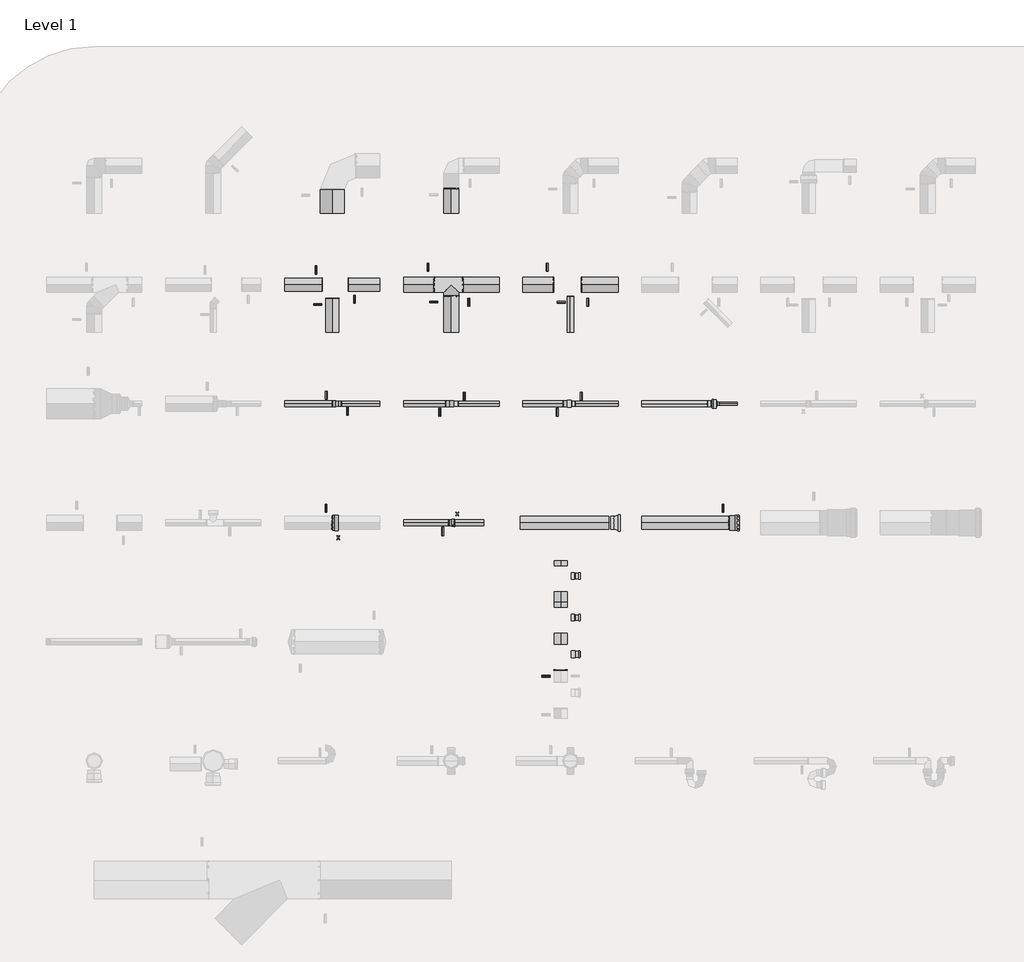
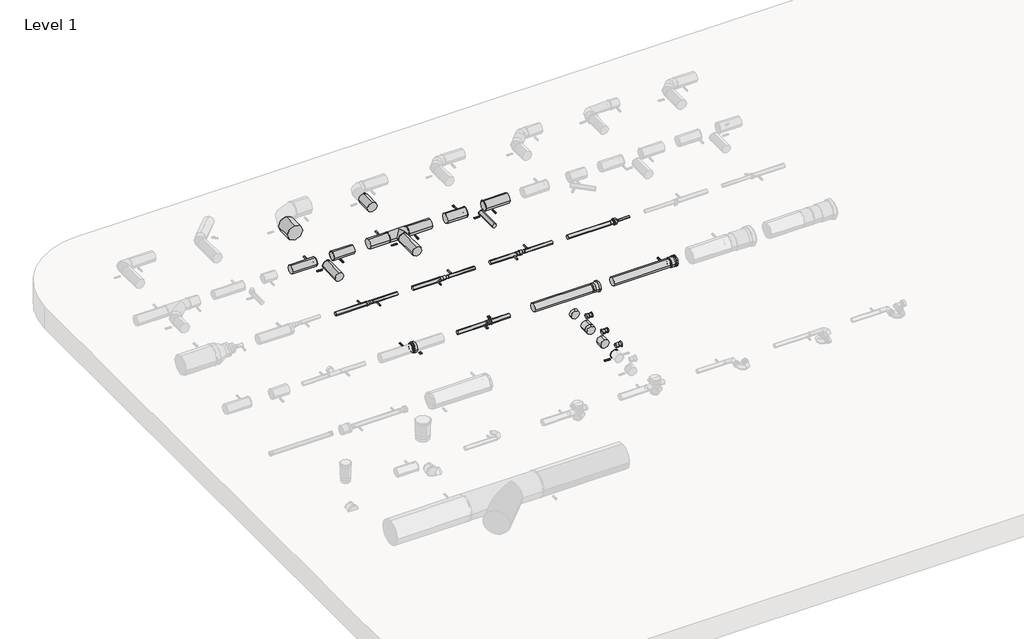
# One storey, part 3 of 6: 36 pipe fittings, 27 pipe segments.
"""IFC4 building model written with IfcOpenShell, lengths in millimetres."""

from ifc_helpers import new_model, si_unit, point, frame, frame_2d, origin, place, context, project, spatial, circle_curve, trimmed, segment, composite_curve, outline, extrude, transform, mapped, element, save
from components import pipe_fitting_81bb528a, pipe_fitting_5bbf7105, s423250_e266388f, s424050_1e7a39d4, var_c57503f9, var_1d5090d4, var_7b0d4120, var_48b90cc6, var_00a72124, nested_do_not_use_93614455, nested_do_not_use_1446917e, nested_do_not_use_db0ed7d6, nested_do_not_use_e3f89409, nested_do_not_use_a526494d, nested_do_not_use_0fed0da3, nested_do_not_use_7e7c9079, welded_7e5780db, welded_75b1cb19, welded_dc74d5dd, welded_63566782, welded_ac007b25

model = new_model("IFC4")

# Units and contexts
model_context = context("Model", 3, world=origin())
ifc_project = project(units=[si_unit("LENGTHUNIT", "METRE", prefix="MILLI")], contexts=[model_context])

# Site, building, storey
site = spatial("IfcSite", under=ifc_project)
building = spatial("IfcBuilding", under=site)
storey = spatial("IfcBuildingStorey", under=building, Name="Level 1", Elevation=0.0)

# Pipe fittings
placement = place(None, origin())
pipe_fitting_shape = pipe_fitting_81bb528a(model_context)
element("IfcPipeFitting", 1, ObjectType="PIF_HDPE weld_Akatherm : ringseal or non-welded", at=placement, inside=storey, context=model_context, shape_type="MappedRepresentation", body=[
    mapped(pipe_fitting_shape, transform((4665.9781064, 17273.6274824, 200.0), x_axis=(1.0, 0.0, 0.0), y_axis=(0.0, 1.0, 0.0), z_axis=(0.0, 0.0, 1.0))),
])
pipe_fitting_2_shape = pipe_fitting_5bbf7105(model_context)
element("IfcPipeFitting", 2, ObjectType="PIF_HDPE weld_Akatherm : ringseal or non-welded", at=placement, inside=storey, context=model_context, shape_type="MappedRepresentation", body=[
    mapped(pipe_fitting_2_shape, transform((5664.9781064, 17273.6274824, 200.0), x_axis=(1.0, 0.0, 0.0), y_axis=(0.0, -1.0, 0.0), z_axis=(0.0, 0.0, -1.0))),
])
s423250_shape = s423250_e266388f(model_context)
element("IfcPipeFitting", 3, ObjectType="PIF_HDPE PVCABS_ADAPTOR_MARLEY2 : S423250", at=placement, inside=storey, context=model_context, shape_type="MappedRepresentation", body=[
    mapped(s423250_shape, transform((6705.1831885, 16477.6285134, 200.0), x_axis=(-1.0, 0.0, 0.0), y_axis=(0.0, -1.0, 0.0), z_axis=(0.0, 0.0, 1.0))),
])
element("IfcPipeFitting", 4, ObjectType="PIF_HDPE PVCABS_ADAPTOR_MARLEY2 : S423250", at=placement, inside=storey, context=model_context, shape_type="MappedRepresentation", body=[
    mapped(s423250_shape, transform((6705.1831885, 16826.6149703, 200.0), x_axis=(-1.0, 0.0, 0.0), y_axis=(0.0, -1.0, 0.0), z_axis=(0.0, 0.0, 1.0))),
])
s424050_shape = s424050_1e7a39d4(model_context)
element("IfcPipeFitting", 5, ObjectType="PIF_HDPE PVCABS_ADAPTOR_MARLEY2 : S424050", at=placement, inside=storey, context=model_context, shape_type="MappedRepresentation", body=[
    mapped(s424050_shape, transform((6704.1831885, 16169.6087155, 200.0), x_axis=(-1.0, 0.0, 0.0), y_axis=(0.0, -1.0, 0.0), z_axis=(0.0, 0.0, 1.0))),
])
var_shape = var_c57503f9(model_context)
element("IfcPipeFitting", 6, ObjectType="PIF_HDPE snap socket_Akatherm : Var.", at=placement, inside=storey, context=model_context, shape_type="MappedRepresentation", body=[
    mapped(var_shape, transform((7997.9781064, 17273.6274824, 200.0), x_axis=(1.0, 0.0, 0.0), y_axis=(0.0, 1.0, 0.0), z_axis=(0.0, 0.0, 1.0))),
])
var_2_shape = var_1d5090d4(model_context)
element("IfcPipeFitting", 7, ObjectType="PIF_HDPE threaded connector_Akatherm : Var.", at=placement, inside=storey, context=model_context, shape_type="MappedRepresentation", body=[
    mapped(var_2_shape, transform((7859.9781064, 18273.6274824, 200.0), x_axis=(-1.0, 0.0, 0.0), y_axis=(0.0, -1.0, 0.0), z_axis=(0.0, 0.0, 1.0))),
])
var_3_shape = var_7b0d4120(model_context)
element("IfcPipeFitting", 8, ObjectType="PIF_HDPE branch_Akatherm : Var.", at=placement, inside=storey, context=model_context, shape_type="MappedRepresentation", body=[
    mapped(var_3_shape, transform((5659.9781064, 19273.6274824, 200.0), x_axis=(-1.0, 0.0, 0.0), y_axis=(0.0, -1.0, 0.0), z_axis=(0.0, 0.0, 1.0))),
])
var_4_shape = var_48b90cc6(model_context)
element("IfcPipeFitting", 9, ObjectType="PIF_HDPE snap socket short_Akatherm : Var.", at=placement, inside=storey, context=model_context, shape_type="MappedRepresentation", body=[
    mapped(var_4_shape, transform((4659.9781064, 17273.6274824, 200.0), x_axis=(1.0, 0.0, 0.0), y_axis=(0.0, 1.0, 0.0), z_axis=(0.0, 0.0, 1.0))),
])
var_5_shape = var_00a72124(model_context)
element("IfcPipeFitting", 10, ObjectType="PIF_HDPE stub flange_Akatherm : Var.", at=placement, inside=storey, context=model_context, shape_type="MappedRepresentation", body=[
    mapped(var_5_shape, transform((7079.9781064, 17273.6274824, 200.0), x_axis=(-1.0000000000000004, 0.0, 0.0), y_axis=(0.0, -1.0000000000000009, 0.0), z_axis=(0.0, 0.0, 1.0000000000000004))),
])
nested_do_not_use_shape = nested_do_not_use_93614455(model_context)
element("IfcPipeFitting", 11, ObjectType="ZZZ_do no use_PIF_HDPE rubber sleeve -SH_Akatherm : nested, do not use", at=placement, inside=storey, context=model_context, shape_type="MappedRepresentation", body=[
    mapped(nested_do_not_use_shape, transform((5676.9781064, 17273.6274824, 200.0), x_axis=(1.0, 0.0, 0.0), y_axis=(0.0, 1.0, 0.0), z_axis=(0.0, 0.0, 1.0))),
])
nested_do_not_use_2_shape = nested_do_not_use_1446917e(model_context)
element("IfcPipeFitting", 12, ObjectType="ZZZ_do no use_PIF_HDPE reducer -SH_Akatherm : nested, do not use", at=placement, inside=storey, context=model_context, shape_type="MappedRepresentation", body=[
    mapped(nested_do_not_use_2_shape, transform((4698.2781064, 18273.6274824, 200.0), x_axis=(1.0, 0.0, 0.0), y_axis=(0.0, 1.0, 0.0), z_axis=(0.0, 0.0, 1.0))),
])
nested_do_not_use_3_shape = nested_do_not_use_db0ed7d6(model_context)
element("IfcPipeFitting", 13, ObjectType="ZZZ_do no use_PIF_HDPE female thread adapter -SH_Akatherm : nested, do not use", at=placement, inside=storey, context=model_context, shape_type="MappedRepresentation", body=[
    mapped(nested_do_not_use_3_shape, transform((5644.9781064, 18273.6274824, 200.0), x_axis=(1.0, 0.0, 0.0), y_axis=(0.0, 1.0, 0.0), z_axis=(0.0, 0.0, 1.0))),
])
nested_do_not_use_4_shape = nested_do_not_use_e3f89409(model_context)
element("IfcPipeFitting", 14, ObjectType="ZZZ_do no use_PIF_HDPE male thread adapter -SH_Akatherm : nested, do not use", at=placement, inside=storey, context=model_context, shape_type="MappedRepresentation", body=[
    mapped(nested_do_not_use_4_shape, transform((5689.9781064, 18273.6274824, 200.0), x_axis=(-1.0, 0.0, 0.0), y_axis=(0.0, -1.0, 0.0), z_axis=(0.0, 0.0, 1.0))),
])
nested_do_not_use_5_shape = nested_do_not_use_a526494d(model_context)
element("IfcPipeFitting", 15, ObjectType="ZZZ_do no use_PIF_HDPE female thread adapter -SH_Akatherm : nested, do not use", at=placement, inside=storey, context=model_context, shape_type="MappedRepresentation", body=[
    mapped(nested_do_not_use_5_shape, transform((6669.9781064, 18273.6274824, 200.0), x_axis=(-1.0, 0.0, 0.0), y_axis=(0.0, -1.0, 0.0), z_axis=(0.0, 0.0, 1.0))),
])
nested_do_not_use_6_shape = nested_do_not_use_0fed0da3(model_context)
element("IfcPipeFitting", 16, ObjectType="ZZZ_do no use_PIF_HDPE male thread adapter -SH_Akatherm : nested, do not use", at=placement, inside=storey, context=model_context, shape_type="MappedRepresentation", body=[
    mapped(nested_do_not_use_6_shape, transform((6627.4781064, 18273.6274824, 200.0), x_axis=(1.0, 0.0, 0.0), y_axis=(0.0, 1.0, 0.0), z_axis=(0.0, 0.0, 1.0))),
])
nested_do_not_use_7_shape = nested_do_not_use_7e7c9079(model_context)
element("IfcPipeFitting", 17, ObjectType="ZZZ_do no use_PIF_HDPE trap connecting socket -SH_Akatherm : nested, do not use", at=placement, inside=storey, context=model_context, shape_type="MappedRepresentation", body=[
    mapped(nested_do_not_use_7_shape, transform((5659.9781064, 17273.6274824, 200.0), x_axis=(1.0, 0.0, 0.0), y_axis=(0.0, 1.0, 0.0), z_axis=(0.0, 0.0, 1.0))),
])
welded_shape = welded_7e5780db(model_context)
element("IfcPipeFitting", 18, ObjectType="PIF_HDPE weld_Akatherm : welded", at=placement, inside=storey, context=model_context, shape_type="MappedRepresentation", body=[
    mapped(welded_shape, transform((5755.7781064, 19273.6274824, 200.0), x_axis=(1.0, 0.0, 0.0), y_axis=(0.0, 1.0, 0.0), z_axis=(0.0, 0.0, 1.0))),
])
element("IfcPipeFitting", 19, ObjectType="PIF_HDPE weld_Akatherm : welded", at=placement, inside=storey, context=model_context, shape_type="MappedRepresentation", body=[
    mapped(welded_shape, transform((5514.1781064, 19273.6274824, 200.0), x_axis=(-1.0, 0.0, 0.0), y_axis=(0.0, -1.0, 0.0), z_axis=(0.0, 0.0, 1.0))),
])
element("IfcPipeFitting", 20, ObjectType="PIF_HDPE weld_Akatherm : welded", at=placement, inside=storey, context=model_context, shape_type="MappedRepresentation", body=[
    mapped(welded_shape, transform((5659.9781064, 19177.8274824, 200.0), x_axis=(0.0, -1.0, 0.0), y_axis=(1.0, 0.0, 0.0), z_axis=(0.0, 0.0, 1.0))),
])
element("IfcPipeFitting", 21, ObjectType="PIF_HDPE weld_Akatherm : welded", at=placement, inside=storey, context=model_context, shape_type="MappedRepresentation", body=[
    mapped(welded_shape, transform((6755.7781064, 19273.6274824, 200.0), x_axis=(1.0, 0.0, 0.0), y_axis=(0.0, 1.0, 0.0), z_axis=(0.0, 0.0, 1.0))),
])
element("IfcPipeFitting", 22, ObjectType="PIF_HDPE weld_Akatherm : welded", at=placement, inside=storey, context=model_context, shape_type="MappedRepresentation", body=[
    mapped(welded_shape, transform((6514.1781064, 19273.6274824, 200.0), x_axis=(-1.0, 0.0, 0.0), y_axis=(0.0, -1.0, 0.0), z_axis=(0.0, 0.0, 1.0))),
])
welded_2_shape = welded_75b1cb19(model_context)
element("IfcPipeFitting", 23, ObjectType="PIF_HDPE weld_Akatherm : welded", at=placement, inside=storey, context=model_context, shape_type="MappedRepresentation", body=[
    mapped(welded_2_shape, transform((4659.9781064, 18273.6274824, 200.0), x_axis=(-1.0, 0.0, 0.0), y_axis=(0.0, -1.0, 0.0), z_axis=(0.0, 0.0, 1.0))),
])
element("IfcPipeFitting", 24, ObjectType="PIF_HDPE weld_Akatherm : welded", at=placement, inside=storey, context=model_context, shape_type="MappedRepresentation", body=[
    mapped(welded_2_shape, transform((5611.6781064, 18273.6274824, 200.0), x_axis=(-1.0, 0.0, 0.0), y_axis=(0.0, 1.0, 0.0), z_axis=(0.0, 0.0, -1.0))),
])
element("IfcPipeFitting", 25, ObjectType="PIF_HDPE weld_Akatherm : welded", at=placement, inside=storey, context=model_context, shape_type="MappedRepresentation", body=[
    mapped(welded_2_shape, transform((6598.3781064, 18273.6274824, 200.0), x_axis=(-1.0, 0.0, 0.0), y_axis=(0.0, 1.0, 0.0), z_axis=(0.0, 0.0, -1.0))),
])
element("IfcPipeFitting", 26, ObjectType="PIF_HDPE weld_Akatherm : welded", at=placement, inside=storey, context=model_context, shape_type="MappedRepresentation", body=[
    mapped(welded_2_shape, transform((5636.6781064, 17273.6274824, 200.0), x_axis=(-1.0, 0.0, 0.0), y_axis=(0.0, 1.0, 0.0), z_axis=(0.0, 0.0, -1.0))),
])
welded_3_shape = welded_dc74d5dd(model_context)
element("IfcPipeFitting", 27, ObjectType="PIF_HDPE weld_Akatherm : welded", at=placement, inside=storey, context=model_context, shape_type="MappedRepresentation", body=[
    mapped(welded_3_shape, transform((6659.9781064, 19175.3274824, 200.0), x_axis=(0.0, -1.0, 0.0), y_axis=(1.0, 0.0, 0.0), z_axis=(0.0, 0.0, 1.0))),
])
welded_4_shape = welded_63566782(model_context)
element("IfcPipeFitting", 28, ObjectType="PIF_HDPE weld_Akatherm : welded", at=placement, inside=storey, context=model_context, shape_type="MappedRepresentation", body=[
    mapped(welded_4_shape, transform((4736.5781064, 18273.6274824, 200.0), x_axis=(1.0, 0.0, 0.0), y_axis=(0.0, 1.0, 0.0), z_axis=(0.0, 0.0, 1.0))),
])
element("IfcPipeFitting", 29, ObjectType="PIF_HDPE weld_Akatherm : welded", at=placement, inside=storey, context=model_context, shape_type="MappedRepresentation", body=[
    mapped(welded_4_shape, transform((5718.2781064, 18273.6274824, 200.0), x_axis=(1.0, 0.0, 0.0), y_axis=(0.0, -1.0, 0.0), z_axis=(0.0, 0.0, -1.0))),
])
element("IfcPipeFitting", 30, ObjectType="PIF_HDPE weld_Akatherm : welded", at=placement, inside=storey, context=model_context, shape_type="MappedRepresentation", body=[
    mapped(welded_4_shape, transform((6701.5781064, 18273.6274824, 200.0), x_axis=(1.0, 0.0, 0.0), y_axis=(0.0, -1.0, 0.0), z_axis=(0.0, 0.0, -1.0))),
])
welded_5_shape = welded_ac007b25(model_context)
element("IfcPipeFitting", 31, ObjectType="PIF_HDPE weld_Akatherm : welded", at=placement, inside=storey, context=model_context, shape_type="MappedRepresentation", body=[
    mapped(welded_5_shape, transform((4796.2781064, 19273.6274824, 200.0), x_axis=(1.0, 0.0, 0.0), y_axis=(0.0, 1.0, 0.0), z_axis=(0.0, 0.0, 1.0))),
])
element("IfcPipeFitting", 32, ObjectType="PIF_HDPE weld_Akatherm : welded", at=placement, inside=storey, context=model_context, shape_type="MappedRepresentation", body=[
    mapped(welded_5_shape, transform((4573.6781064, 19273.6274824, 200.0), x_axis=(-1.0, 0.0, 0.0), y_axis=(0.0, -1.0, 0.0), z_axis=(0.0, 0.0, 1.0))),
])
element("IfcPipeFitting", 33, ObjectType="PIF_HDPE weld_Akatherm : welded", at=placement, inside=storey, context=model_context, shape_type="MappedRepresentation", body=[
    mapped(welded_5_shape, transform((4659.9781064, 19157.3274824, 200.0), x_axis=(0.0, -1.0, 0.0), y_axis=(1.0, 0.0, 0.0), z_axis=(0.0, 0.0, 1.0))),
])
element("IfcPipeFitting", 34, ObjectType="PIF_HDPE weld_Akatherm : welded", at=placement, inside=storey, context=model_context, shape_type="MappedRepresentation", body=[
    mapped(welded_5_shape, transform((4657.6781064, 17273.6274824, 200.0), x_axis=(-1.0, 0.0, 0.0), y_axis=(0.0, -1.0, 0.0), z_axis=(0.0, 0.0, 1.0))),
])
element("IfcPipeFitting", 35, ObjectType="PIF_HDPE weld_Akatherm : welded", at=placement, inside=storey, context=model_context, shape_type="MappedRepresentation", body=[
    mapped(welded_5_shape, transform((7991.6781064, 17273.6274824, 200.0), x_axis=(-1.0, 0.0, 0.0), y_axis=(0.0, -1.0, 0.0), z_axis=(0.0, 0.0, 1.0))),
])
element("IfcPipeFitting", 36, ObjectType="PIF_HDPE weld_Akatherm : welded", at=placement, inside=storey, context=model_context, shape_type="MappedRepresentation", body=[
    mapped(welded_5_shape, transform((6577.6831885, 16034.6087155, 200.0), x_axis=(0.0, -1.0, 0.0), y_axis=(1.0, 0.0, 0.0), z_axis=(0.0, 0.0, 1.0))),
])

# Pipe segments
element("IfcPipeSegment", 37, ObjectType="Akatherm HDPE (DN)", at=placement, inside=storey, context=model_context, shape_type="SweptSolid", body=[
    extrude(outline(composite_curve([segment(trimmed(circle_curve(frame_2d((200.0, 4659.9781064)), 100.0), [point((200.0, 4559.9781064))], [point((100.0, 4659.9781064))], False, "CARTESIAN"), True, "CONTINUOUS"), segment(trimmed(circle_curve(frame_2d((200.0, 4659.9781064)), 100.0), [point((100.0, 4659.9781064))], [point((200.0, 4759.9781064))], False, "CARTESIAN"), True, "CONTINUOUS"), segment(trimmed(circle_curve(frame_2d((200.0, 4659.9781064)), 100.0), [point((200.0, 4759.9781064))], [point((300.0, 4659.9781064))], False, "CARTESIAN"), True, "CONTINUOUS"), segment(trimmed(circle_curve(frame_2d((200.0, 4659.9781064)), 100.0), [point((300.0, 4659.9781064))], [point((200.0, 4559.9781064))], False, "CARTESIAN"), True, "CONTINUOUS")], self_intersect=False)), frame((0.0, 19873.6274824, 0.0), z_axis=(0.0, 1.0, 0.0), x_axis=(0.0, 0.0, 1.0)), (0.0, 0.0, 1.0), 206.4),
])
element("IfcPipeSegment", 38, ObjectType="Akatherm HDPE (DN)", at=placement, inside=storey, context=model_context, shape_type="SweptSolid", body=[
    extrude(outline(composite_curve([segment(trimmed(circle_curve(frame_2d((200.0, 5659.9781064)), 62.5), [point((200.0, 5597.4781064))], [point((137.5, 5659.9781064))], False, "CARTESIAN"), True, "CONTINUOUS"), segment(trimmed(circle_curve(frame_2d((200.0, 5659.9781064)), 62.5), [point((137.5, 5659.9781064))], [point((200.0, 5722.4781064))], False, "CARTESIAN"), True, "CONTINUOUS"), segment(trimmed(circle_curve(frame_2d((200.0, 5659.9781064)), 62.5), [point((200.0, 5722.4781064))], [point((262.5, 5659.9781064))], False, "CARTESIAN"), True, "CONTINUOUS"), segment(trimmed(circle_curve(frame_2d((200.0, 5659.9781064)), 62.5), [point((262.5, 5659.9781064))], [point((200.0, 5597.4781064))], False, "CARTESIAN"), True, "CONTINUOUS")], self_intersect=False)), frame((0.0, 19873.6274824, 0.0), z_axis=(0.0, 1.0, 0.0), x_axis=(0.0, 0.0, 1.0)), (0.0, 0.0, 1.0), 208.4),
])
element("IfcPipeSegment", 39, ObjectType="Akatherm HDPE (DN)", at=placement, inside=storey, context=model_context, shape_type="SweptSolid", body=[
    extrude(outline(composite_curve([segment(trimmed(circle_curve(frame_2d((19273.6274824, 200.0)), 55.0), [point((19218.6274824, 200.0))], [point((19273.6274824, 255.0))], False, "CARTESIAN"), True, "CONTINUOUS"), segment(trimmed(circle_curve(frame_2d((19273.6274824, 200.0)), 55.0), [point((19273.6274824, 255.0))], [point((19328.6274824, 200.0))], False, "CARTESIAN"), True, "CONTINUOUS"), segment(trimmed(circle_curve(frame_2d((19273.6274824, 200.0)), 55.0), [point((19328.6274824, 200.0))], [point((19273.6274824, 145.0))], False, "CARTESIAN"), True, "CONTINUOUS"), segment(trimmed(circle_curve(frame_2d((19273.6274824, 200.0)), 55.0), [point((19273.6274824, 145.0))], [point((19218.6274824, 200.0))], False, "CARTESIAN"), True, "CONTINUOUS")], self_intersect=False)), frame((4792.5781064, 0.0, 0.0), z_axis=(1.0, 0.0, 0.0), x_axis=(0.0, 1.0, 0.0)), (0.0, 0.0, 1.0), 267.4),
])
element("IfcPipeSegment", 40, ObjectType="Akatherm HDPE (DN)", at=placement, inside=storey, context=model_context, shape_type="SweptSolid", body=[
    extrude(outline(composite_curve([segment(trimmed(circle_curve(frame_2d((200.0, 4659.9781064)), 55.0), [point((200.0, 4604.9781064))], [point((145.0, 4659.9781064))], False, "CARTESIAN"), True, "CONTINUOUS"), segment(trimmed(circle_curve(frame_2d((200.0, 4659.9781064)), 55.0), [point((145.0, 4659.9781064))], [point((200.0, 4714.9781064))], False, "CARTESIAN"), True, "CONTINUOUS"), segment(trimmed(circle_curve(frame_2d((200.0, 4659.9781064)), 55.0), [point((200.0, 4714.9781064))], [point((255.0, 4659.9781064))], False, "CARTESIAN"), True, "CONTINUOUS"), segment(trimmed(circle_curve(frame_2d((200.0, 4659.9781064)), 55.0), [point((255.0, 4659.9781064))], [point((200.0, 4604.9781064))], False, "CARTESIAN"), True, "CONTINUOUS")], self_intersect=False)), frame((0.0, 18873.6274824, 0.0), z_axis=(0.0, 1.0, 0.0), x_axis=(0.0, 0.0, 1.0)), (0.0, 0.0, 1.0), 287.4),
])
element("IfcPipeSegment", 41, ObjectType="Akatherm HDPE (DN)", at=placement, inside=storey, context=model_context, shape_type="SweptSolid", body=[
    extrude(outline(composite_curve([segment(trimmed(circle_curve(frame_2d((200.0, 5659.9781064)), 62.5), [point((200.0, 5597.4781064))], [point((137.5, 5659.9781064))], False, "CARTESIAN"), True, "CONTINUOUS"), segment(trimmed(circle_curve(frame_2d((200.0, 5659.9781064)), 62.5), [point((137.5, 5659.9781064))], [point((200.0, 5722.4781064))], False, "CARTESIAN"), True, "CONTINUOUS"), segment(trimmed(circle_curve(frame_2d((200.0, 5659.9781064)), 62.5), [point((200.0, 5722.4781064))], [point((262.5, 5659.9781064))], False, "CARTESIAN"), True, "CONTINUOUS"), segment(trimmed(circle_curve(frame_2d((200.0, 5659.9781064)), 62.5), [point((262.5, 5659.9781064))], [point((200.0, 5597.4781064))], False, "CARTESIAN"), True, "CONTINUOUS")], self_intersect=False)), frame((0.0, 18873.6274824, 0.0), z_axis=(0.0, 1.0, 0.0), x_axis=(0.0, 0.0, 1.0)), (0.0, 0.0, 1.0), 308.4),
])
element("IfcPipeSegment", 42, ObjectType="Akatherm HDPE (DN)", at=placement, inside=storey, context=model_context, shape_type="SweptSolid", body=[
    extrude(outline(composite_curve([segment(trimmed(circle_curve(frame_2d((19273.6274824, 200.0)), 55.0), [point((19218.6274824, 200.0))], [point((19273.6274824, 255.0))], False, "CARTESIAN"), True, "CONTINUOUS"), segment(trimmed(circle_curve(frame_2d((19273.6274824, 200.0)), 55.0), [point((19273.6274824, 255.0))], [point((19328.6274824, 200.0))], False, "CARTESIAN"), True, "CONTINUOUS"), segment(trimmed(circle_curve(frame_2d((19273.6274824, 200.0)), 55.0), [point((19328.6274824, 200.0))], [point((19273.6274824, 145.0))], False, "CARTESIAN"), True, "CONTINUOUS"), segment(trimmed(circle_curve(frame_2d((19273.6274824, 200.0)), 55.0), [point((19273.6274824, 145.0))], [point((19218.6274824, 200.0))], False, "CARTESIAN"), True, "CONTINUOUS")], self_intersect=False)), frame((4259.9781064, 0.0, 0.0), z_axis=(1.0, 0.0, 0.0), x_axis=(0.0, 1.0, 0.0)), (0.0, 0.0, 1.0), 317.4),
])
element("IfcPipeSegment", 43, ObjectType="Akatherm HDPE (DN)", at=placement, inside=storey, context=model_context, shape_type="SweptSolid", body=[
    extrude(outline(composite_curve([segment(trimmed(circle_curve(frame_2d((19273.6274824, 200.0)), 62.5), [point((19211.1274824, 200.0))], [point((19273.6274824, 262.5))], False, "CARTESIAN"), True, "CONTINUOUS"), segment(trimmed(circle_curve(frame_2d((19273.6274824, 200.0)), 62.5), [point((19273.6274824, 262.5))], [point((19336.1274824, 200.0))], False, "CARTESIAN"), True, "CONTINUOUS"), segment(trimmed(circle_curve(frame_2d((19273.6274824, 200.0)), 62.5), [point((19336.1274824, 200.0))], [point((19273.6274824, 137.5))], False, "CARTESIAN"), True, "CONTINUOUS"), segment(trimmed(circle_curve(frame_2d((19273.6274824, 200.0)), 62.5), [point((19273.6274824, 137.5))], [point((19211.1274824, 200.0))], False, "CARTESIAN"), True, "CONTINUOUS")], self_intersect=False)), frame((5751.5781064, 0.0, 0.0), z_axis=(1.0, 0.0, 0.0), x_axis=(0.0, 1.0, 0.0)), (0.0, 0.0, 1.0), 308.4),
])
element("IfcPipeSegment", 44, ObjectType="Akatherm HDPE (DN)", at=placement, inside=storey, context=model_context, shape_type="SweptSolid", body=[
    extrude(outline(composite_curve([segment(trimmed(circle_curve(frame_2d((19273.6274824, 200.0)), 62.5), [point((19211.1274824, 200.0))], [point((19273.6274824, 262.5))], False, "CARTESIAN"), True, "CONTINUOUS"), segment(trimmed(circle_curve(frame_2d((19273.6274824, 200.0)), 62.5), [point((19273.6274824, 262.5))], [point((19336.1274824, 200.0))], False, "CARTESIAN"), True, "CONTINUOUS"), segment(trimmed(circle_curve(frame_2d((19273.6274824, 200.0)), 62.5), [point((19336.1274824, 200.0))], [point((19273.6274824, 137.5))], False, "CARTESIAN"), True, "CONTINUOUS"), segment(trimmed(circle_curve(frame_2d((19273.6274824, 200.0)), 62.5), [point((19273.6274824, 137.5))], [point((19211.1274824, 200.0))], False, "CARTESIAN"), True, "CONTINUOUS")], self_intersect=False)), frame((5259.9781064, 0.0, 0.0), z_axis=(1.0, 0.0, 0.0), x_axis=(0.0, 1.0, 0.0)), (0.0, 0.0, 1.0), 258.4),
])
element("IfcPipeSegment", 45, ObjectType="Akatherm HDPE (DN)", at=placement, inside=storey, context=model_context, shape_type="SweptSolid", body=[
    extrude(outline(composite_curve([segment(trimmed(circle_curve(frame_2d((200.0, 6659.9781064)), 28.0), [point((200.0, 6631.9781064))], [point((172.0, 6659.9781064))], False, "CARTESIAN"), True, "CONTINUOUS"), segment(trimmed(circle_curve(frame_2d((200.0, 6659.9781064)), 28.0), [point((172.0, 6659.9781064))], [point((200.0, 6687.9781064))], False, "CARTESIAN"), True, "CONTINUOUS"), segment(trimmed(circle_curve(frame_2d((200.0, 6659.9781064)), 28.0), [point((200.0, 6687.9781064))], [point((228.0, 6659.9781064))], False, "CARTESIAN"), True, "CONTINUOUS"), segment(trimmed(circle_curve(frame_2d((200.0, 6659.9781064)), 28.0), [point((228.0, 6659.9781064))], [point((200.0, 6631.9781064))], False, "CARTESIAN"), True, "CONTINUOUS")], self_intersect=False)), frame((0.0, 18873.6274824, 0.0), z_axis=(0.0, 1.0, 0.0), x_axis=(0.0, 0.0, 1.0)), (0.0, 0.0, 1.0), 303.4),
])
element("IfcPipeSegment", 46, ObjectType="Akatherm HDPE (DN)", at=placement, inside=storey, context=model_context, shape_type="SweptSolid", body=[
    extrude(outline(composite_curve([segment(trimmed(circle_curve(frame_2d((19273.6274824, 200.0)), 62.5), [point((19211.1274824, 200.0))], [point((19273.6274824, 262.5))], False, "CARTESIAN"), True, "CONTINUOUS"), segment(trimmed(circle_curve(frame_2d((19273.6274824, 200.0)), 62.5), [point((19273.6274824, 262.5))], [point((19336.1274824, 200.0))], False, "CARTESIAN"), True, "CONTINUOUS"), segment(trimmed(circle_curve(frame_2d((19273.6274824, 200.0)), 62.5), [point((19336.1274824, 200.0))], [point((19273.6274824, 137.5))], False, "CARTESIAN"), True, "CONTINUOUS"), segment(trimmed(circle_curve(frame_2d((19273.6274824, 200.0)), 62.5), [point((19273.6274824, 137.5))], [point((19211.1274824, 200.0))], False, "CARTESIAN"), True, "CONTINUOUS")], self_intersect=False)), frame((6751.5781064, 0.0, 0.0), z_axis=(1.0, 0.0, 0.0), x_axis=(0.0, 1.0, 0.0)), (0.0, 0.0, 1.0), 308.4),
])
element("IfcPipeSegment", 47, ObjectType="Akatherm HDPE (DN)", at=placement, inside=storey, context=model_context, shape_type="SweptSolid", body=[
    extrude(outline(composite_curve([segment(trimmed(circle_curve(frame_2d((19273.6274824, 200.0)), 62.5), [point((19211.1274824, 200.0))], [point((19273.6274824, 262.5))], False, "CARTESIAN"), True, "CONTINUOUS"), segment(trimmed(circle_curve(frame_2d((19273.6274824, 200.0)), 62.5), [point((19273.6274824, 262.5))], [point((19336.1274824, 200.0))], False, "CARTESIAN"), True, "CONTINUOUS"), segment(trimmed(circle_curve(frame_2d((19273.6274824, 200.0)), 62.5), [point((19336.1274824, 200.0))], [point((19273.6274824, 137.5))], False, "CARTESIAN"), True, "CONTINUOUS"), segment(trimmed(circle_curve(frame_2d((19273.6274824, 200.0)), 62.5), [point((19273.6274824, 137.5))], [point((19211.1274824, 200.0))], False, "CARTESIAN"), True, "CONTINUOUS")], self_intersect=False)), frame((6259.9781064, 0.0, 0.0), z_axis=(1.0, 0.0, 0.0), x_axis=(0.0, 1.0, 0.0)), (0.0, 0.0, 1.0), 258.4),
])
element("IfcPipeSegment", 48, ObjectType="Akatherm HDPE (DN)", at=placement, inside=storey, context=model_context, shape_type="SweptSolid", body=[
    extrude(outline(composite_curve([segment(trimmed(circle_curve(frame_2d((18273.6274824, 200.0)), 25.0), [point((18248.6274824, 200.0))], [point((18273.6274824, 225.0))], False, "CARTESIAN"), True, "CONTINUOUS"), segment(trimmed(circle_curve(frame_2d((18273.6274824, 200.0)), 25.0), [point((18273.6274824, 225.0))], [point((18298.6274824, 200.0))], False, "CARTESIAN"), True, "CONTINUOUS"), segment(trimmed(circle_curve(frame_2d((18273.6274824, 200.0)), 25.0), [point((18298.6274824, 200.0))], [point((18273.6274824, 175.0))], False, "CARTESIAN"), True, "CONTINUOUS"), segment(trimmed(circle_curve(frame_2d((18273.6274824, 200.0)), 25.0), [point((18273.6274824, 175.0))], [point((18248.6274824, 200.0))], False, "CARTESIAN"), True, "CONTINUOUS")], self_intersect=False)), frame((4259.9781064, 0.0, 0.0), z_axis=(1.0, 0.0, 0.0), x_axis=(0.0, 1.0, 0.0)), (0.0, 0.0, 1.0), 401.7),
])
element("IfcPipeSegment", 49, ObjectType="Akatherm HDPE (DN)", at=placement, inside=storey, context=model_context, shape_type="SweptSolid", body=[
    extrude(outline(composite_curve([segment(trimmed(circle_curve(frame_2d((18273.6274824, 200.0)), 20.0), [point((18253.6274824, 200.0))], [point((18273.6274824, 220.0))], False, "CARTESIAN"), True, "CONTINUOUS"), segment(trimmed(circle_curve(frame_2d((18273.6274824, 200.0)), 20.0), [point((18273.6274824, 220.0))], [point((18293.6274824, 200.0))], False, "CARTESIAN"), True, "CONTINUOUS"), segment(trimmed(circle_curve(frame_2d((18273.6274824, 200.0)), 20.0), [point((18293.6274824, 200.0))], [point((18273.6274824, 180.0))], False, "CARTESIAN"), True, "CONTINUOUS"), segment(trimmed(circle_curve(frame_2d((18273.6274824, 200.0)), 20.0), [point((18273.6274824, 180.0))], [point((18253.6274824, 200.0))], False, "CARTESIAN"), True, "CONTINUOUS")], self_intersect=False)), frame((4734.8781064, 0.0, 0.0), z_axis=(1.0, 0.0, 0.0), x_axis=(0.0, 1.0, 0.0)), (0.0, 0.0, 1.0), 325.1),
])
element("IfcPipeSegment", 50, ObjectType="Akatherm HDPE (DN)", at=placement, inside=storey, context=model_context, shape_type="SweptSolid", body=[
    extrude(outline(composite_curve([segment(trimmed(circle_curve(frame_2d((18273.6274824, 200.0)), 25.0), [point((18248.6274824, 200.0))], [point((18273.6274824, 225.0))], False, "CARTESIAN"), True, "CONTINUOUS"), segment(trimmed(circle_curve(frame_2d((18273.6274824, 200.0)), 25.0), [point((18273.6274824, 225.0))], [point((18298.6274824, 200.0))], False, "CARTESIAN"), True, "CONTINUOUS"), segment(trimmed(circle_curve(frame_2d((18273.6274824, 200.0)), 25.0), [point((18298.6274824, 200.0))], [point((18273.6274824, 175.0))], False, "CARTESIAN"), True, "CONTINUOUS"), segment(trimmed(circle_curve(frame_2d((18273.6274824, 200.0)), 25.0), [point((18273.6274824, 175.0))], [point((18248.6274824, 200.0))], False, "CARTESIAN"), True, "CONTINUOUS")], self_intersect=False)), frame((5259.9781064, 0.0, 0.0), z_axis=(1.0, 0.0, 0.0), x_axis=(0.0, 1.0, 0.0)), (0.0, 0.0, 1.0), 353.4),
])
element("IfcPipeSegment", 51, ObjectType="Akatherm HDPE (DN)", at=placement, inside=storey, context=model_context, shape_type="SweptSolid", body=[
    extrude(outline(composite_curve([segment(trimmed(circle_curve(frame_2d((18273.6274824, 200.0)), 20.0), [point((18253.6274824, 200.0))], [point((18273.6274824, 220.0))], False, "CARTESIAN"), True, "CONTINUOUS"), segment(trimmed(circle_curve(frame_2d((18273.6274824, 200.0)), 20.0), [point((18273.6274824, 220.0))], [point((18293.6274824, 200.0))], False, "CARTESIAN"), True, "CONTINUOUS"), segment(trimmed(circle_curve(frame_2d((18273.6274824, 200.0)), 20.0), [point((18293.6274824, 200.0))], [point((18273.6274824, 180.0))], False, "CARTESIAN"), True, "CONTINUOUS"), segment(trimmed(circle_curve(frame_2d((18273.6274824, 200.0)), 20.0), [point((18273.6274824, 180.0))], [point((18253.6274824, 200.0))], False, "CARTESIAN"), True, "CONTINUOUS")], self_intersect=False)), frame((5716.5781064, 0.0, 0.0), z_axis=(1.0, 0.0, 0.0), x_axis=(0.0, 1.0, 0.0)), (0.0, 0.0, 1.0), 343.4),
])
element("IfcPipeSegment", 52, ObjectType="Akatherm HDPE (DN)", at=placement, inside=storey, context=model_context, shape_type="SweptSolid", body=[
    extrude(outline(composite_curve([segment(trimmed(circle_curve(frame_2d((18273.6274824, 200.0)), 25.0), [point((18248.6274824, 200.0))], [point((18273.6274824, 225.0))], False, "CARTESIAN"), True, "CONTINUOUS"), segment(trimmed(circle_curve(frame_2d((18273.6274824, 200.0)), 25.0), [point((18273.6274824, 225.0))], [point((18298.6274824, 200.0))], False, "CARTESIAN"), True, "CONTINUOUS"), segment(trimmed(circle_curve(frame_2d((18273.6274824, 200.0)), 25.0), [point((18298.6274824, 200.0))], [point((18273.6274824, 175.0))], False, "CARTESIAN"), True, "CONTINUOUS"), segment(trimmed(circle_curve(frame_2d((18273.6274824, 200.0)), 25.0), [point((18273.6274824, 175.0))], [point((18248.6274824, 200.0))], False, "CARTESIAN"), True, "CONTINUOUS")], self_intersect=False)), frame((6259.9781064, 0.0, 0.0), z_axis=(1.0, 0.0, 0.0), x_axis=(0.0, 1.0, 0.0)), (0.0, 0.0, 1.0), 340.1),
])
element("IfcPipeSegment", 53, ObjectType="Akatherm HDPE (DN)", at=placement, inside=storey, context=model_context, shape_type="SweptSolid", body=[
    extrude(outline(composite_curve([segment(trimmed(circle_curve(frame_2d((18273.6274824, 200.0)), 20.0), [point((18253.6274824, 200.0))], [point((18273.6274824, 220.0))], False, "CARTESIAN"), True, "CONTINUOUS"), segment(trimmed(circle_curve(frame_2d((18273.6274824, 200.0)), 20.0), [point((18273.6274824, 220.0))], [point((18293.6274824, 200.0))], False, "CARTESIAN"), True, "CONTINUOUS"), segment(trimmed(circle_curve(frame_2d((18273.6274824, 200.0)), 20.0), [point((18293.6274824, 200.0))], [point((18273.6274824, 180.0))], False, "CARTESIAN"), True, "CONTINUOUS"), segment(trimmed(circle_curve(frame_2d((18273.6274824, 200.0)), 20.0), [point((18273.6274824, 180.0))], [point((18253.6274824, 200.0))], False, "CARTESIAN"), True, "CONTINUOUS")], self_intersect=False)), frame((6699.8781064, 0.0, 0.0), z_axis=(1.0, 0.0, 0.0), x_axis=(0.0, 1.0, 0.0)), (0.0, 0.0, 1.0), 360.1),
])
element("IfcPipeSegment", 54, ObjectType="Akatherm HDPE (DN)", at=placement, inside=storey, context=model_context, shape_type="SweptSolid", body=[
    extrude(outline(composite_curve([segment(trimmed(circle_curve(frame_2d((17273.6274824, 200.0)), 25.0), [point((17248.6274824, 200.0))], [point((17273.6274824, 225.0))], False, "CARTESIAN"), True, "CONTINUOUS"), segment(trimmed(circle_curve(frame_2d((17273.6274824, 200.0)), 25.0), [point((17273.6274824, 225.0))], [point((17298.6274824, 200.0))], False, "CARTESIAN"), True, "CONTINUOUS"), segment(trimmed(circle_curve(frame_2d((17273.6274824, 200.0)), 25.0), [point((17298.6274824, 200.0))], [point((17273.6274824, 175.0))], False, "CARTESIAN"), True, "CONTINUOUS"), segment(trimmed(circle_curve(frame_2d((17273.6274824, 200.0)), 25.0), [point((17273.6274824, 175.0))], [point((17248.6274824, 200.0))], False, "CARTESIAN"), True, "CONTINUOUS")], self_intersect=False)), frame((5259.9781064, 0.0, 0.0), z_axis=(1.0, 0.0, 0.0), x_axis=(0.0, 1.0, 0.0)), (0.0, 0.0, 1.0), 378.4),
])
element("IfcPipeSegment", 55, ObjectType="Akatherm HDPE (DN)", at=placement, inside=storey, context=model_context, shape_type="SweptSolid", body=[
    extrude(outline(composite_curve([segment(trimmed(circle_curve(frame_2d((17273.6274824, 200.0)), 25.0), [point((17248.6274824, 200.0))], [point((17273.6274824, 225.0))], False, "CARTESIAN"), True, "CONTINUOUS"), segment(trimmed(circle_curve(frame_2d((17273.6274824, 200.0)), 25.0), [point((17273.6274824, 225.0))], [point((17298.6274824, 200.0))], False, "CARTESIAN"), True, "CONTINUOUS"), segment(trimmed(circle_curve(frame_2d((17273.6274824, 200.0)), 25.0), [point((17298.6274824, 200.0))], [point((17273.6274824, 175.0))], False, "CARTESIAN"), True, "CONTINUOUS"), segment(trimmed(circle_curve(frame_2d((17273.6274824, 200.0)), 25.0), [point((17273.6274824, 175.0))], [point((17248.6274824, 200.0))], False, "CARTESIAN"), True, "CONTINUOUS")], self_intersect=False)), frame((5664.9781064, 0.0, 0.0), z_axis=(1.0, 0.0, 0.0), x_axis=(0.0, 1.0, 0.0)), (0.0, 0.0, 1.0), 265.0),
])
element("IfcPipeSegment", 56, ObjectType="Akatherm HDPE (DN)", at=placement, inside=storey, context=model_context, shape_type="SweptSolid", body=[
    extrude(outline(composite_curve([segment(trimmed(circle_curve(frame_2d((17273.6274824, 200.0)), 55.0), [point((17328.6274824, 200.0))], [point((17273.6274824, 145.0))], False, "CARTESIAN"), True, "CONTINUOUS"), segment(trimmed(circle_curve(frame_2d((17273.6274824, 200.0)), 55.0), [point((17273.6274824, 145.0))], [point((17218.6274824, 200.0))], False, "CARTESIAN"), True, "CONTINUOUS"), segment(trimmed(circle_curve(frame_2d((17273.6274824, 200.0)), 55.0), [point((17218.6274824, 200.0))], [point((17273.6274824, 255.0))], False, "CARTESIAN"), True, "CONTINUOUS"), segment(trimmed(circle_curve(frame_2d((17273.6274824, 200.0)), 55.0), [point((17273.6274824, 255.0))], [point((17328.6274824, 200.0))], False, "CARTESIAN"), True, "CONTINUOUS")], self_intersect=False)), frame((6239.9781064, 0.0, 0.0), z_axis=(1.0, 0.0, 0.0), x_axis=(0.0, 1.0, 0.0)), (0.0, 0.0, 1.0), 741.7),
])
element("IfcPipeSegment", 57, ObjectType="Akatherm HDPE (DN)", at=placement, inside=storey, context=model_context, shape_type="SweptSolid", body=[
    extrude(outline(composite_curve([segment(trimmed(circle_curve(frame_2d((17273.6274824, 200.0)), 55.0), [point((17328.6274824, 200.0))], [point((17273.6274824, 145.0))], False, "CARTESIAN"), True, "CONTINUOUS"), segment(trimmed(circle_curve(frame_2d((17273.6274824, 200.0)), 55.0), [point((17273.6274824, 145.0))], [point((17218.6274824, 200.0))], False, "CARTESIAN"), True, "CONTINUOUS"), segment(trimmed(circle_curve(frame_2d((17273.6274824, 200.0)), 55.0), [point((17218.6274824, 200.0))], [point((17273.6274824, 255.0))], False, "CARTESIAN"), True, "CONTINUOUS"), segment(trimmed(circle_curve(frame_2d((17273.6274824, 200.0)), 55.0), [point((17273.6274824, 255.0))], [point((17328.6274824, 200.0))], False, "CARTESIAN"), True, "CONTINUOUS")], self_intersect=False)), frame((7259.9781064, 0.0, 0.0), z_axis=(1.0, 0.0, 0.0), x_axis=(0.0, 1.0, 0.0)), (0.0, 0.0, 1.0), 735.4),
])
element("IfcPipeSegment", 58, ObjectType="Akatherm HDPE (DN)", at=placement, inside=storey, context=model_context, shape_type="SweptSolid", body=[
    extrude(outline(composite_curve([segment(trimmed(circle_curve(frame_2d((200.0, 6577.6831885)), 55.0), [point((200.0, 6632.6831885))], [point((255.0, 6577.6831885))], False, "CARTESIAN"), True, "CONTINUOUS"), segment(trimmed(circle_curve(frame_2d((200.0, 6577.6831885)), 55.0), [point((255.0, 6577.6831885))], [point((200.0, 6522.6831885))], False, "CARTESIAN"), True, "CONTINUOUS"), segment(trimmed(circle_curve(frame_2d((200.0, 6577.6831885)), 55.0), [point((200.0, 6522.6831885))], [point((145.0, 6577.6831885))], False, "CARTESIAN"), True, "CONTINUOUS"), segment(trimmed(circle_curve(frame_2d((200.0, 6577.6831885)), 55.0), [point((145.0, 6577.6831885))], [point((200.0, 6632.6831885))], False, "CARTESIAN"), True, "CONTINUOUS")], self_intersect=False)), frame((0.0, 16564.6785134, 0.0), z_axis=(0.0, 1.0, 0.0), x_axis=(0.0, 0.0, 1.0)), (0.0, 0.0, 1.0), 40.216659),
])
element("IfcPipeSegment", 59, ObjectType="Akatherm HDPE (DN)", at=placement, inside=storey, context=model_context, shape_type="SweptSolid", body=[
    extrude(outline(composite_curve([segment(trimmed(circle_curve(frame_2d((200.0, 6577.6831885)), 55.0), [point((200.0, 6632.6831885))], [point((255.0, 6577.6831885))], False, "CARTESIAN"), True, "CONTINUOUS"), segment(trimmed(circle_curve(frame_2d((200.0, 6577.6831885)), 55.0), [point((255.0, 6577.6831885))], [point((200.0, 6522.6831885))], False, "CARTESIAN"), True, "CONTINUOUS"), segment(trimmed(circle_curve(frame_2d((200.0, 6577.6831885)), 55.0), [point((200.0, 6522.6831885))], [point((145.0, 6577.6831885))], False, "CARTESIAN"), True, "CONTINUOUS"), segment(trimmed(circle_curve(frame_2d((200.0, 6577.6831885)), 55.0), [point((145.0, 6577.6831885))], [point((200.0, 6632.6831885))], False, "CARTESIAN"), True, "CONTINUOUS")], self_intersect=False)), frame((0.0, 16255.9087155, 0.0), z_axis=(0.0, 1.0, 0.0), x_axis=(0.0, 0.0, 1.0)), (0.0, 0.0, 1.0), 89.6697979),
])
element("IfcPipeSegment", 60, ObjectType="Akatherm HDPE (DN)", at=placement, inside=storey, context=model_context, shape_type="SweptSolid", body=[
    extrude(outline(composite_curve([segment(trimmed(circle_curve(frame_2d((200.0, 6577.6831885)), 55.0), [point((200.0, 6632.6831885))], [point((255.0, 6577.6831885))], False, "CARTESIAN"), True, "CONTINUOUS"), segment(trimmed(circle_curve(frame_2d((200.0, 6577.6831885)), 55.0), [point((255.0, 6577.6831885))], [point((200.0, 6522.6831885))], False, "CARTESIAN"), True, "CONTINUOUS"), segment(trimmed(circle_curve(frame_2d((200.0, 6577.6831885)), 55.0), [point((200.0, 6522.6831885))], [point((145.0, 6577.6831885))], False, "CARTESIAN"), True, "CONTINUOUS"), segment(trimmed(circle_curve(frame_2d((200.0, 6577.6831885)), 55.0), [point((145.0, 6577.6831885))], [point((200.0, 6632.6831885))], False, "CARTESIAN"), True, "CONTINUOUS")], self_intersect=False)), frame((0.0, 16913.6649703, 0.0), z_axis=(0.0, 1.0, 0.0), x_axis=(0.0, 0.0, 1.0)), (0.0, 0.0, 1.0), 40.216659),
])
element("IfcPipeSegment", 61, ObjectType="Akatherm HDPE (DN)", at=placement, inside=storey, context=model_context, shape_type="SweptSolid", body=[
    extrude(outline(composite_curve([segment(trimmed(circle_curve(frame_2d((200.0, 6577.6831885)), 55.0), [point((200.0, 6632.6831885))], [point((255.0, 6577.6831885))], False, "CARTESIAN"), True, "CONTINUOUS"), segment(trimmed(circle_curve(frame_2d((200.0, 6577.6831885)), 55.0), [point((255.0, 6577.6831885))], [point((200.0, 6522.6831885))], False, "CARTESIAN"), True, "CONTINUOUS"), segment(trimmed(circle_curve(frame_2d((200.0, 6577.6831885)), 55.0), [point((200.0, 6522.6831885))], [point((145.0, 6577.6831885))], False, "CARTESIAN"), True, "CONTINUOUS"), segment(trimmed(circle_curve(frame_2d((200.0, 6577.6831885)), 55.0), [point((145.0, 6577.6831885))], [point((200.0, 6632.6831885))], False, "CARTESIAN"), True, "CONTINUOUS")], self_intersect=False)), frame((0.0, 16604.8951724, 0.0), z_axis=(0.0, 1.0, 0.0), x_axis=(0.0, 0.0, 1.0)), (0.0, 0.0, 1.0), 89.6697979),
])
element("IfcPipeSegment", 62, ObjectType="Copper example pipe", at=placement, inside=storey, context=model_context, shape_type="SweptSolid", body=[
    extrude(outline(composite_curve([segment(trimmed(circle_curve(frame_2d((18273.6274824, 200.0)), 25.0), [point((18298.6274824, 200.0))], [point((18273.6274824, 175.0))], False, "CARTESIAN"), True, "CONTINUOUS"), segment(trimmed(circle_curve(frame_2d((18273.6274824, 200.0)), 25.0), [point((18273.6274824, 175.0))], [point((18248.6274824, 200.0))], False, "CARTESIAN"), True, "CONTINUOUS"), segment(trimmed(circle_curve(frame_2d((18273.6274824, 200.0)), 25.0), [point((18248.6274824, 200.0))], [point((18273.6274824, 225.0))], False, "CARTESIAN"), True, "CONTINUOUS"), segment(trimmed(circle_curve(frame_2d((18273.6274824, 200.0)), 25.0), [point((18273.6274824, 225.0))], [point((18298.6274824, 200.0))], False, "CARTESIAN"), True, "CONTINUOUS")], self_intersect=False)), frame((7259.9781064, 0.0, 0.0), z_axis=(1.0, 0.0, 0.0), x_axis=(0.0, 1.0, 0.0)), (0.0, 0.0, 1.0), 551.7),
])
element("IfcPipeSegment", 63, ObjectType="Copper example pipe", at=placement, inside=storey, context=model_context, shape_type="SweptSolid", body=[
    extrude(outline(composite_curve([segment(trimmed(circle_curve(frame_2d((18273.6274824, 200.0)), 12.7), [point((18260.9274824, 200.0))], [point((18273.6274824, 212.7))], False, "CARTESIAN"), True, "CONTINUOUS"), segment(trimmed(circle_curve(frame_2d((18273.6274824, 200.0)), 12.7), [point((18273.6274824, 212.7))], [point((18286.3274824, 200.0))], False, "CARTESIAN"), True, "CONTINUOUS"), segment(trimmed(circle_curve(frame_2d((18273.6274824, 200.0)), 12.7), [point((18286.3274824, 200.0))], [point((18273.6274824, 187.3))], False, "CARTESIAN"), True, "CONTINUOUS"), segment(trimmed(circle_curve(frame_2d((18273.6274824, 200.0)), 12.7), [point((18273.6274824, 187.3))], [point((18260.9274824, 200.0))], False, "CARTESIAN"), True, "CONTINUOUS")], self_intersect=False)), frame((7909.9781064, 0.0, 0.0), z_axis=(1.0, 0.0, 0.0), x_axis=(0.0, 1.0, 0.0)), (0.0, 0.0, 1.0), 150.0),
])

save(model, "model.ifc")
